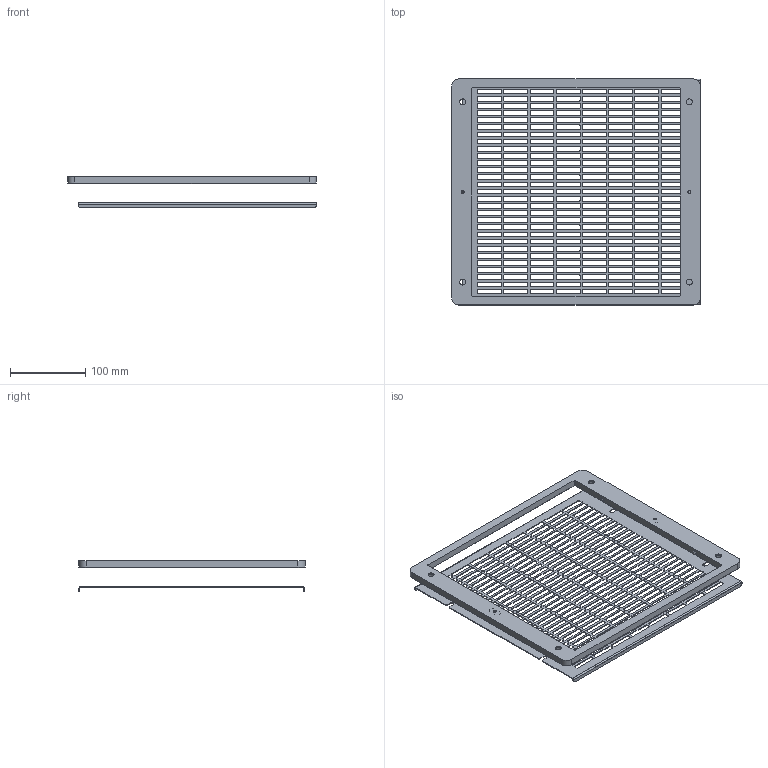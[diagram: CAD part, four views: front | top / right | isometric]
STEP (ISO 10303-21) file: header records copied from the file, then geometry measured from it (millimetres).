
FILE_DESCRIPTION (( 'STEP AP214' ), '1' );
FILE_NAME ('T10EMC.STEP', '2018-08-30T16:13:11', ( '' ), ( '' ), 'SwSTEP 2.0', 'SolidWorks 2016', '' );
FILE_SCHEMA (( 'AUTOMOTIVE_DESIGN' ));
Length unit declared in the file: inch
Products named in the file (3): 87742415; 87558510; T10EMC
Assembly tree (2 placements, depth 2):
  T10EMC
    87558510
    87742415
Bounding box: 331.47 x 301.24 x 41.27 mm (x, y, z)
Volume: 265475.1 mm3; surface area: 193086.3 mm2
Topology: 2 solids, 2 shells, 2024 faces, 6010 edges, 3996 vertices
Faces by surface type: plane 1018, cylinder 998, cone 8
Entity records: 69362 total; most frequent: DIRECTION 12072, CARTESIAN_POINT 12035, ORIENTED_EDGE 12020, EDGE_CURVE 6010, AXIS2_PLACEMENT_3D 4033, VECTOR 4006, LINE 4006, VERTEX_POINT 3996
